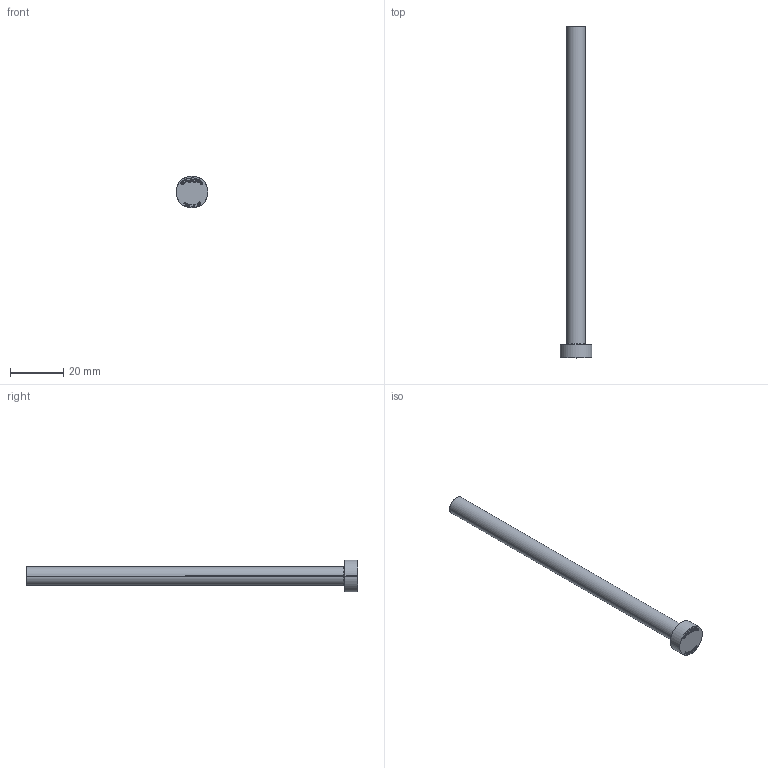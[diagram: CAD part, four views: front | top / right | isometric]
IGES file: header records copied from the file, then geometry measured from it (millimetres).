
Start section: SolidWorks IGES file using analytic representation for surfaces
Global section: file name: C:\Users\User\Downloads\Matripeça 31-08 tar\PB - PINO EXTRATOR TIPO _B_ (CATÁLOGO)\PB07,0\PB07,0125.IGS; native system: SolidWorks 2024; preprocessor: SolidWorks 2024; author: User; date: 260901.144544; units: millimetre
Bounding box: 12 x 125 x 12 mm (x, y, z)
Surface area: 3058.3 mm2 (no closed solid volume)
Topology: 0 solids, 0 shells, 394 faces, 3559 edges, 3559 vertices
Faces by surface type: bspline 380, revolution 14
